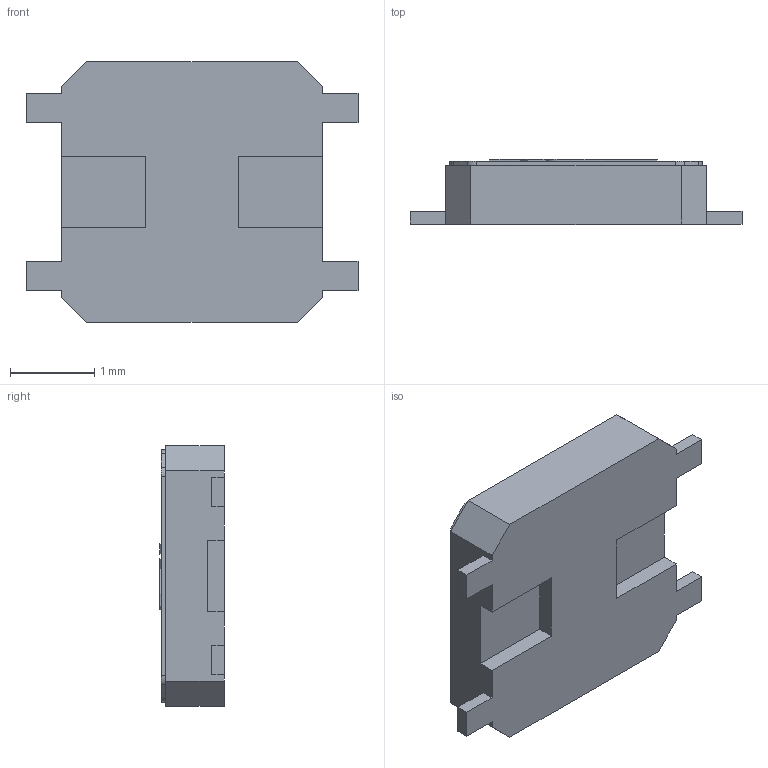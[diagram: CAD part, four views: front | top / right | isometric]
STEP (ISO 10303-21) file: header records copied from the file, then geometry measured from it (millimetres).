
FILE_DESCRIPTION((''),'2;1');
FILE_NAME('ASM0018_ASM','2024-01-07T',('WYH'),(''),'PRO/ENGINEER BY PARAMETRIC TECHNOLOGY CORPORATION, 2013040','PRO/ENGINEER BY PARAMETRIC TECHNOLOGY CORPORATION, 2013040','');
FILE_SCHEMA(('CONFIG_CONTROL_DESIGN'));
Length unit declared in the file: millimetre
Products named in the file (1): ASM0018_ASM
Bounding box: 3.95 x 0.77 x 3.1 mm (x, y, z)
Volume: 6.8 mm3; surface area: 30.4 mm2
Topology: 1 solids, 1 shells, 108 faces, 300 edges, 200 vertices
Faces by surface type: plane 90, cylinder 18
Entity records: 3458 total; most frequent: CARTESIAN_POINT 608, ORIENTED_EDGE 600, DIRECTION 552, EDGE_CURVE 300, VECTOR 264, LINE 264, VERTEX_POINT 200, AXIS2_PLACEMENT_3D 144
